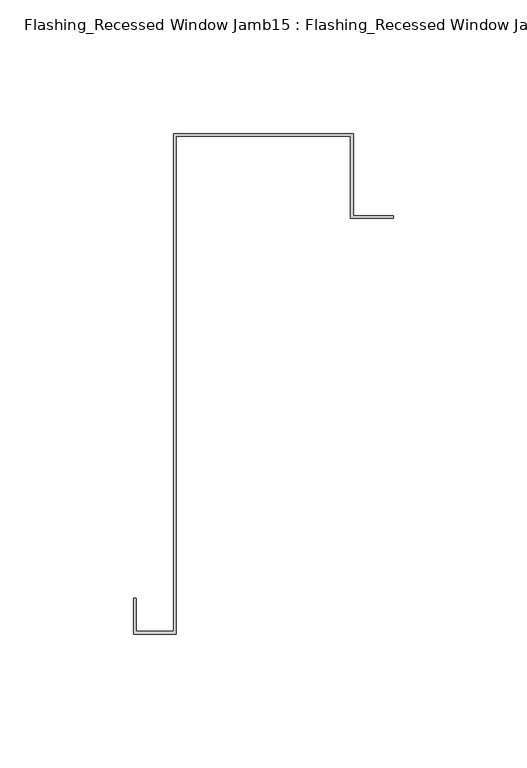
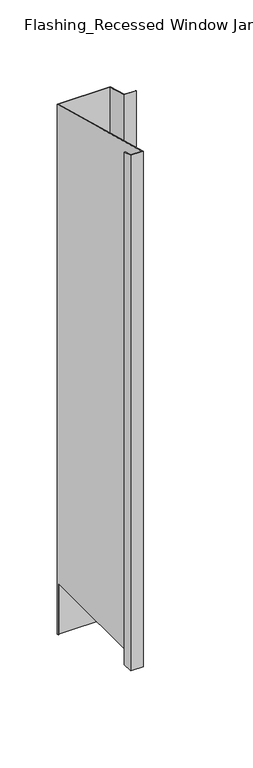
"""IFC4 building model written with IfcOpenShell, lengths in millimetres: proxy geometry, Flashing_Recessed Window Jamb15 : Flashing_Recessed Window Jamb."""

from ifc_helpers import new_model, si_unit, origin, place, context, project, spatial, faceted_brep, source, transform, mapped, element, save


def flashing_recessed_window_jamb15_flashing_recessed_window_f5ba4824(model_context):
    return source(origin(), model_context, "Body", "Brep", [
        faceted_brep([(16004.8973206, -20641.3616572, -1055.1751138), (16004.8973206, -20610.6136752, -1055.1751138), (15939.5223206, -20610.6136752, -1055.1751138), (15939.5223206, -20611.5455269, -1055.1751138), (15938.5223206, -20611.5455269, -1055.1751138), (15938.5223206, -20609.6136752, -1055.1751138), (16005.8973206, -20609.6136752, -1055.1751138), (16005.8973206, -20640.3616572, -1055.1751138), (16020.8973206, -20640.3616572, -1055.1751138), (16020.8973206, -20641.3616572, -1055.1751138), (16005.8973206, -20609.6136752, -343.2151173), (16005.8973206, -20640.3616572, -334.9762204), (15938.5223206, -20609.6136752, -343.2151173), (15938.5223206, -20611.5455269, -985.662203), (15938.5223206, -20795.9866572, -985.662203), (15938.5223206, -20795.9866572, -293.2766273), (15924.5223206, -20795.9866572, -293.2766273), (15924.5223206, -20795.9866572, -985.662203), (15924.5223206, -20783.6609287, -296.5792963), (15924.5223206, -20783.6609287, -985.662203), (15923.5223206, -20783.6609287, -296.5792963), (15923.5223206, -20783.6609287, -985.662203), (15923.5223206, -20796.9866572, -293.0086781), (15923.5223206, -20796.9866572, -985.662203), (15939.5223206, -20796.9866572, -293.0086781), (15939.5223206, -20796.9866572, -985.662203), (15939.5223206, -20610.6136752, -342.9471681), (15939.5223206, -20611.5455269, -985.662203), (16004.8973206, -20610.6136752, -342.9471681), (16004.8973206, -20641.3616572, -334.7082712), (16020.8973206, -20641.3616572, -334.7082712), (16020.8973206, -20640.3616572, -334.9762204)], [[[0, 1, 2, 3, 4, 5, 6, 7, 8, 9]], [[7, 6, 10, 11]], [[6, 5, 12, 10]], [[12, 5, 4, 13, 14, 15]], [[16, 15, 14, 17]], [[18, 16, 17, 19]], [[20, 18, 19, 21]], [[22, 20, 21, 23]], [[24, 22, 23, 25]], [[2, 26, 24, 25, 27, 3]], [[2, 1, 28, 26]], [[1, 0, 29, 28]], [[0, 9, 30, 29]], [[9, 8, 31, 30]], [[8, 7, 11, 31]], [[11, 10, 12, 15, 16, 18, 20, 22, 24, 26, 28, 29, 30, 31]], [[13, 27, 25, 23, 21, 19, 17, 14]], [[27, 13, 4, 3]]]),
    ])


if __name__ == "__main__":
    model = new_model("IFC4")
    model_context = context("Model", 3, world=origin())
    ifc_project = project(units=[si_unit("LENGTHUNIT", "METRE", prefix="MILLI")], contexts=[model_context])
    site = spatial("IfcSite", under=ifc_project)
    building = spatial("IfcBuilding", under=site)
    placement = place(None, origin())
    flashing_recessed_window_jamb15_flashing_recessed_window_shape = flashing_recessed_window_jamb15_flashing_recessed_window_f5ba4824(model_context)
    element("IfcBuildingElementProxy", 1, Name="Flashing_Recessed Window Jamb15 : Flashing_Recessed Window Jamb", ObjectType="Flashing_Recessed Window Jamb15 : Flashing_Recessed Window Jamb", at=placement, inside=building, context=model_context, shape_type="MappedRepresentation", body=[
        mapped(flashing_recessed_window_jamb15_flashing_recessed_window_shape, transform((0.0, 0.0, 0.0), x_axis=(1.0, 0.0, 0.0), y_axis=(0.0, 1.0, 0.0), z_axis=(0.0, 0.0, 1.0))),
    ])
    save(model, "model.ifc")
